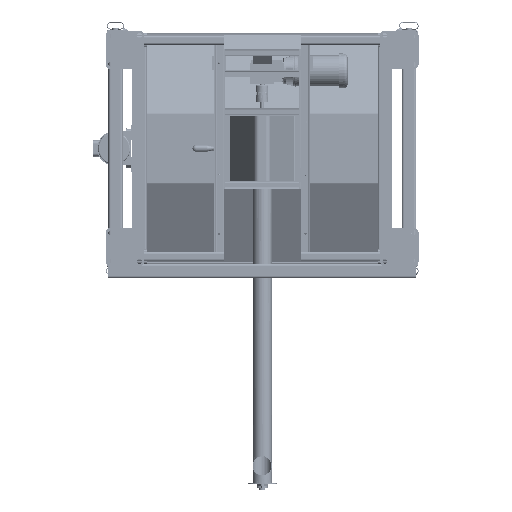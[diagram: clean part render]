
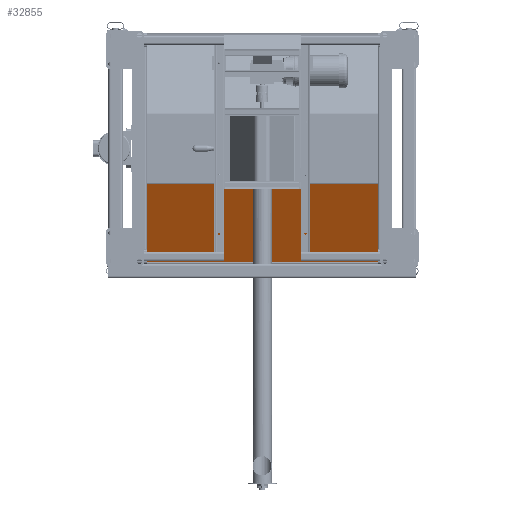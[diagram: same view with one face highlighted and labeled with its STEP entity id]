
A CAD part, front view. The second image highlights one B-rep face of the part: STEP entity #32855.
In plain terms, the highlighted planar face has unit normal (0, -0.883, -0.469).
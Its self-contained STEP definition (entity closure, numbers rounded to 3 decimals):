
#3446=PLANE('',#37034);
#4384=FACE_OUTER_BOUND('',#6320,.T.);
#6320=EDGE_LOOP('',(#23524,#23525,#23526,#23527));
#8656=LINE('',#53161,#10878);
#8676=LINE('',#53214,#10898);
#8677=LINE('',#53217,#10899);
#8678=LINE('',#53218,#10900);
#10878=VECTOR('',#42056,0.394);
#10898=VECTOR('',#42106,0.394);
#10899=VECTOR('',#42109,0.394);
#10900=VECTOR('',#42110,0.394);
#15207=VERTEX_POINT('',#53158);
#15208=VERTEX_POINT('',#53160);
#15226=VERTEX_POINT('',#53212);
#15227=VERTEX_POINT('',#53216);
#18400=EDGE_CURVE('',#15207,#15208,#8656,.T.);
#18427=EDGE_CURVE('',#15226,#15207,#8676,.T.);
#18428=EDGE_CURVE('',#15227,#15226,#8677,.T.);
#18429=EDGE_CURVE('',#15227,#15208,#8678,.T.);
#23524=ORIENTED_EDGE('',*,*,#18427,.F.);
#23525=ORIENTED_EDGE('',*,*,#18428,.F.);
#23526=ORIENTED_EDGE('',*,*,#18429,.T.);
#23527=ORIENTED_EDGE('',*,*,#18400,.F.);
#32855=ADVANCED_FACE('',(#4384),#3446,.T.);
#37034=AXIS2_PLACEMENT_3D('',#53215,#42107,#42108);
#42056=DIRECTION('',(0.,-0.469,0.883));
#42106=DIRECTION('',(-1.,0.,0.));
#42107=DIRECTION('center_axis',(0.,-0.883,-0.469));
#42108=DIRECTION('ref_axis',(0.,0.469,-0.883));
#42109=DIRECTION('',(0.,0.469,-0.883));
#42110=DIRECTION('',(-1.,0.,0.));
#53158=CARTESIAN_POINT('',(-24.,8.695,-23.616));
#53160=CARTESIAN_POINT('',(-24.,0.036,-7.33));
#53161=CARTESIAN_POINT('',(-24.,8.695,-23.616));
#53212=CARTESIAN_POINT('',(24.,8.695,-23.616));
#53214=CARTESIAN_POINT('',(0.,8.695,-23.616));
#53215=CARTESIAN_POINT('Origin',(0.,0.036,-7.33));
#53216=CARTESIAN_POINT('',(24.,0.036,-7.33));
#53217=CARTESIAN_POINT('',(24.,8.695,-23.616));
#53218=CARTESIAN_POINT('',(0.,0.036,-7.33));
